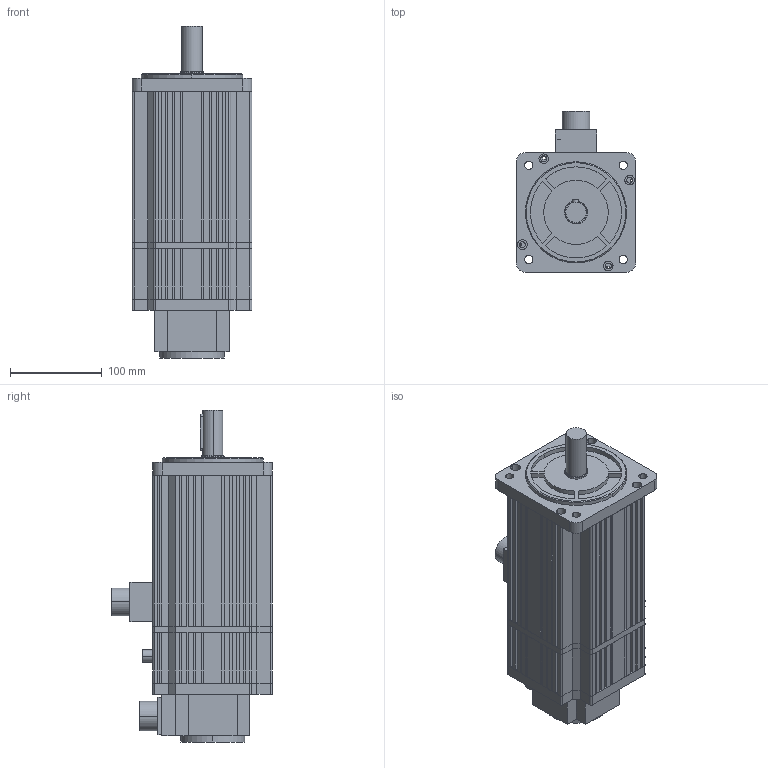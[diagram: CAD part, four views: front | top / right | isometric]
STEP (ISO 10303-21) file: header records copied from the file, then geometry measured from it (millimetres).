
FILE_DESCRIPTION (( 'STEP AP203' ), '1' );
FILE_NAME ('130-15015(湍秶雄).STEP', '2020-05-30T08:22:01', ( '' ), ( '' ), 'SwSTEP 2.0', 'SolidWorks 2016', '' );
FILE_SCHEMA (( 'CONFIG_CONTROL_DESIGN' ));
Length unit declared in the file: millimetre
Products named in the file (12): 130粣; 130隅赽 15籟1000; 惕掅芛; 130惕掅儂褲_1; 瑩6; 130侜督惕掅傷裔; 130晤鎢んㄗ52ㄘ; 130侜督綴裔; 130瑤脣2_1; 130侜督ヶ裔; 130-15015(湍秶雄); 130瑤脣
Assembly tree (11 placements, depth 2):
  130-15015(湍秶雄)
    130隅赽 15籟1000
    130侜督ヶ裔
    130侜督惕掅傷裔
    130惕掅儂褲_1
    130瑤脣
    130侜督綴裔
    130晤鎢んㄗ52ㄘ
    130瑤脣2_1
    惕掅芛
    130粣
    瑩6
Bounding box: 130 x 175 x 361 mm (x, y, z)
Volume: 1479263.7 mm3; surface area: 475868 mm2
Topology: 15 solids, 15 shells, 821 faces, 2113 edges, 1386 vertices
Faces by surface type: plane 558, cylinder 243, cone 10, bspline 10
Entity records: 26302 total; most frequent: CARTESIAN_POINT 4518, DIRECTION 4277, ORIENTED_EDGE 4210, EDGE_CURVE 2105, VECTOR 1539, LINE 1539, VERTEX_POINT 1386, AXIS2_PLACEMENT_3D 1369
